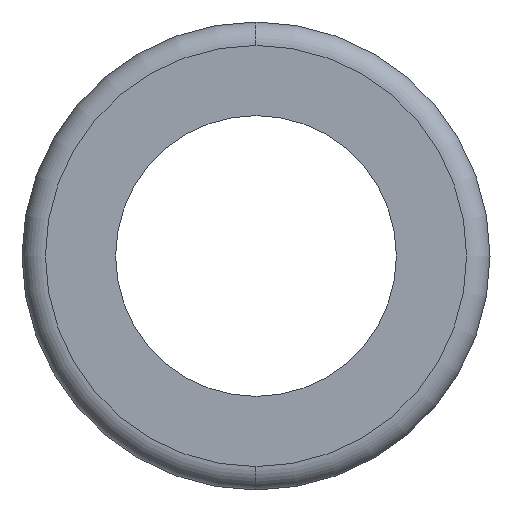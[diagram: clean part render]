
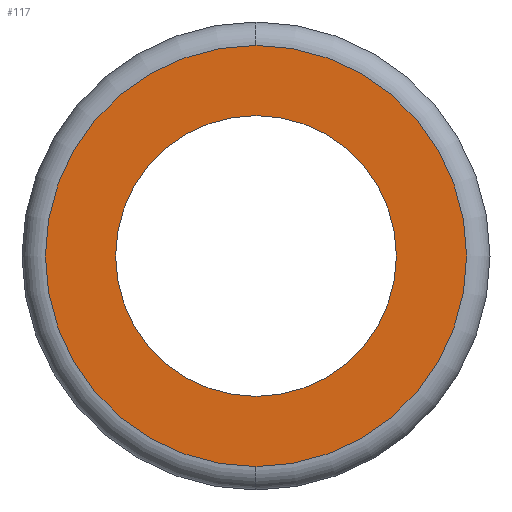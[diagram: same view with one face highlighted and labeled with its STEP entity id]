
A CAD part, left-side view. The second image highlights one B-rep face of the part: STEP entity #117.
In plain terms, the highlighted planar face has unit normal (-1, 0, 0).
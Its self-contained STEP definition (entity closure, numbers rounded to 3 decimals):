
#1 = CARTESIAN_POINT ( 'NONE',  ( 0., 0., 0. ) ) ;
#9 = DIRECTION ( 'NONE',  ( 0., 0., -1. ) ) ;
#43 = CARTESIAN_POINT ( 'NONE',  ( 0., 0., 0. ) ) ;
#47 = EDGE_CURVE ( 'NONE', #343, #96, #118, .T. ) ;
#57 = AXIS2_PLACEMENT_3D ( 'NONE', #342, #355, #131 ) ;
#66 = CARTESIAN_POINT ( 'NONE',  ( 0., 0., 0. ) ) ;
#76 = EDGE_LOOP ( 'NONE', ( #154, #91 ) ) ;
#83 = FACE_BOUND ( 'NONE', #76, .T. ) ;
#87 = AXIS2_PLACEMENT_3D ( 'NONE', #66, #183, #313 ) ;
#91 = ORIENTED_EDGE ( 'NONE', *, *, #283, .F. ) ;
#96 = VERTEX_POINT ( 'NONE', #282 ) ;
#117 = ADVANCED_FACE ( 'NONE', ( #248, #83 ), #201, .F. ) ;
#118 = CIRCLE ( 'NONE', #314, 9. ) ;
#124 = DIRECTION ( 'NONE',  ( 0., 0., 1. ) ) ;
#131 = DIRECTION ( 'NONE',  ( 0., 0., 1. ) ) ;
#138 = ORIENTED_EDGE ( 'NONE', *, *, #47, .T. ) ;
#140 = DIRECTION ( 'NONE',  ( -1., 0., 0. ) ) ;
#154 = ORIENTED_EDGE ( 'NONE', *, *, #250, .F. ) ;
#183 = DIRECTION ( 'NONE',  ( -1., 0., 0. ) ) ;
#190 = CIRCLE ( 'NONE', #87, 9. ) ;
#195 = EDGE_CURVE ( 'NONE', #96, #343, #190, .T. ) ;
#197 = CARTESIAN_POINT ( 'NONE',  ( 0., 0., 9. ) ) ;
#201 = PLANE ( 'NONE',  #372 ) ;
#205 = CARTESIAN_POINT ( 'NONE',  ( 0., 6., 0. ) ) ;
#213 = DIRECTION ( 'NONE',  ( 1., 0., 0. ) ) ;
#230 = VERTEX_POINT ( 'NONE', #362 ) ;
#236 = DIRECTION ( 'NONE',  ( -1., 0., 0. ) ) ;
#241 = DIRECTION ( 'NONE',  ( 0., 0., -1. ) ) ;
#248 = FACE_OUTER_BOUND ( 'NONE', #379, .T. ) ;
#250 = EDGE_CURVE ( 'NONE', #402, #230, #341, .T. ) ;
#282 = CARTESIAN_POINT ( 'NONE',  ( 0., 0., -9. ) ) ;
#283 = EDGE_CURVE ( 'NONE', #230, #402, #371, .T. ) ;
#313 = DIRECTION ( 'NONE',  ( 0., 0., -1. ) ) ;
#314 = AXIS2_PLACEMENT_3D ( 'NONE', #43, #140, #9 ) ;
#326 = ORIENTED_EDGE ( 'NONE', *, *, #195, .T. ) ;
#341 = CIRCLE ( 'NONE', #345, 6. ) ;
#342 = CARTESIAN_POINT ( 'NONE',  ( 0., 0., 0. ) ) ;
#343 = VERTEX_POINT ( 'NONE', #197 ) ;
#345 = AXIS2_PLACEMENT_3D ( 'NONE', #1, #236, #124 ) ;
#355 = DIRECTION ( 'NONE',  ( -1., 0., 0. ) ) ;
#362 = CARTESIAN_POINT ( 'NONE',  ( 0., 0., -6. ) ) ;
#371 = CIRCLE ( 'NONE', #57, 6. ) ;
#372 = AXIS2_PLACEMENT_3D ( 'NONE', #205, #213, #241 ) ;
#379 = EDGE_LOOP ( 'NONE', ( #326, #138 ) ) ;
#402 = VERTEX_POINT ( 'NONE', #410 ) ;
#410 = CARTESIAN_POINT ( 'NONE',  ( 0., 0., 6. ) ) ;
